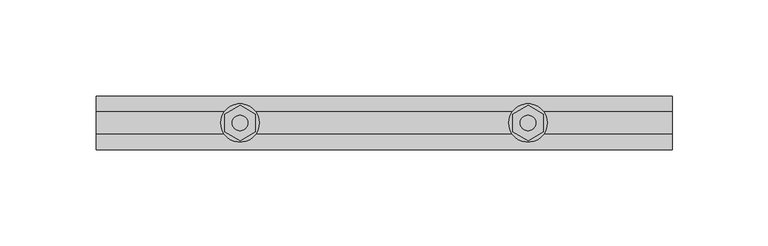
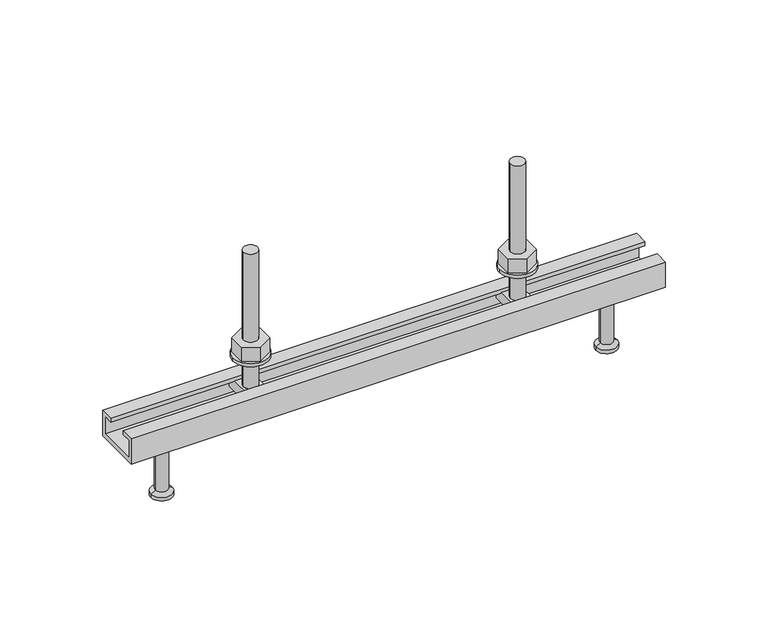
"""IFC4 building model written with IfcOpenShell, lengths in millimetres: fastener geometry, JTA-K JORDAHL® AnchorChannels : JTA-K L=300 mm."""

from ifc_helpers import new_model, si_unit, point, frame, frame_2d, origin, place, context, project, spatial, polyline, circle_curve, trimmed, segment, composite_curve, outline, extrude, source, transform, mapped, element, save
from ifc_brep_helpers import plane_surface, cylinder_surface, revolved_surface, advanced_brep


def fastener_61a32017(model_context):
    return source(origin(), model_context, "Body", "SolidModel", [
        extrude(outline(polyline([(225.0, 9.2376043), (233.0, 4.6188022), (233.0, -4.6188022), (225.0, -9.2376043), (217.0, -4.6188022), (217.0, 4.6188022), (225.0, 9.2376043)]), holes=[composite_curve([segment(trimmed(circle_curve(frame_2d((225.0, 0.0)), 4.0), [point((221.0, 0.0))], [point((229.0, 0.0))], True, "CARTESIAN"), True, "CONTINUOUS"), segment(trimmed(circle_curve(frame_2d((225.0, 0.0)), 4.0), [point((229.0, 0.0))], [point((221.0, 0.0))], True, "CARTESIAN"), True, "CONTINUOUS")], self_intersect=False)]), frame((0.0, 0.0, 17.0), z_axis=(0.0, 0.0, 1.0), x_axis=(1.0, 0.0, 0.0)), (0.0, 0.0, 1.0), 8.4),
        extrude(outline(composite_curve([segment(trimmed(circle_curve(frame_2d((225.0, 0.0)), 10.0), [point((215.0, 0.0))], [point((235.0, 0.0))], False, "CARTESIAN"), True, "CONTINUOUS"), segment(trimmed(circle_curve(frame_2d((225.0, 0.0)), 10.0), [point((235.0, 0.0))], [point((215.0, 0.0))], False, "CARTESIAN"), True, "CONTINUOUS")], self_intersect=False), holes=[composite_curve([segment(trimmed(circle_curve(frame_2d((225.0, 0.0)), 5.25), [point((219.75, 0.0))], [point((230.25, 0.0))], True, "CARTESIAN"), True, "CONTINUOUS"), segment(trimmed(circle_curve(frame_2d((225.0, 0.0)), 5.25), [point((230.25, 0.0))], [point((219.75, 0.0))], True, "CARTESIAN"), True, "CONTINUOUS")], self_intersect=False)]), frame((0.0, 0.0, 15.0), z_axis=(0.0, 0.0, 1.0), x_axis=(1.0, 0.0, 0.0)), (0.0, 0.0, 1.0), 2.0),
        extrude(outline(polyline([(75.0, 9.2376043), (83.0, 4.6188022), (83.0, -4.6188022), (75.0, -9.2376043), (67.0, -4.6188022), (67.0, 4.6188022), (75.0, 9.2376043)]), holes=[composite_curve([segment(trimmed(circle_curve(frame_2d((75.0, 0.0)), 4.0), [point((71.0, 0.0))], [point((79.0, 0.0))], True, "CARTESIAN"), True, "CONTINUOUS"), segment(trimmed(circle_curve(frame_2d((75.0, 0.0)), 4.0), [point((79.0, 0.0))], [point((71.0, 0.0))], True, "CARTESIAN"), True, "CONTINUOUS")], self_intersect=False)]), frame((0.0, 0.0, 17.0), z_axis=(0.0, 0.0, 1.0), x_axis=(1.0, 0.0, 0.0)), (0.0, 0.0, 1.0), 8.4),
        extrude(outline(composite_curve([segment(trimmed(circle_curve(frame_2d((75.0, 0.0)), 10.0), [point((65.0, 0.0))], [point((85.0, 0.0))], False, "CARTESIAN"), True, "CONTINUOUS"), segment(trimmed(circle_curve(frame_2d((75.0, 0.0)), 10.0), [point((85.0, 0.0))], [point((65.0, 0.0))], False, "CARTESIAN"), True, "CONTINUOUS")], self_intersect=False), holes=[composite_curve([segment(trimmed(circle_curve(frame_2d((75.0, 0.0)), 5.25), [point((69.75, 0.0))], [point((80.25, 0.0))], True, "CARTESIAN"), True, "CONTINUOUS"), segment(trimmed(circle_curve(frame_2d((75.0, 0.0)), 5.25), [point((80.25, 0.0))], [point((69.75, 0.0))], True, "CARTESIAN"), True, "CONTINUOUS")], self_intersect=False)]), frame((0.0, 0.0, 15.0), z_axis=(0.0, 0.0, 1.0), x_axis=(1.0, 0.0, 0.0)), (0.0, 0.0, 1.0), 2.0),
        advanced_brep(
        [(230.5, 11.0, -2.3), (230.5, -11.0, -2.3), (230.5, -11.0, -8.3), (230.5, 11.0, -8.3), (219.5, 11.0, -2.3), (219.5, 11.0, -8.3), (219.5, -11.0, -8.3), (219.5, -11.0, -2.3), (229.0, 0.0, -2.3), (221.0, 0.0, -2.3), (221.0, 0.0, 77.7), (229.0, 0.0, 77.7)],
        [
            (0, 1),
            (1, 2),
            (2, 3),
            (3, 0),
            (4, 5),
            (5, 6),
            (6, 7),
            (7, 4),
            (0, 4),
            (7, 1),
            (8, 9, circle_curve(frame((225.0, 0.0, -2.3), z_axis=(0.0, 0.0, -1.0), x_axis=(1.0, 0.0, 0.0)), 4.0)),
            (9, 8, circle_curve(frame((225.0, 0.0, -2.3), z_axis=(0.0, 0.0, -1.0), x_axis=(1.0, 0.0, 0.0)), 4.0)),
            (6, 2),
            (5, 3),
            (10, 11, circle_curve(frame((225.0, 0.0, 77.7), z_axis=(0.0, 0.0, 1.0), x_axis=(1.0, 0.0, 0.0)), 4.0)),
            (11, 10, circle_curve(frame((225.0, 0.0, 77.7), z_axis=(0.0, 0.0, 1.0), x_axis=(1.0, 0.0, 0.0)), 4.0)),
            (10, 9),
            (8, 11),
        ],
        [
            plane_surface(frame((230.5, -11.0, -2.3), z_axis=(1.0, 0.0, 0.0), x_axis=(0.0, -1.0, 0.0))),
            plane_surface(frame((219.5, -11.0, -2.3), z_axis=(-1.0, 0.0, 0.0), x_axis=(0.0, 1.0, 0.0))),
            plane_surface(frame((230.5, 11.0, -2.3), z_axis=(0.0, 0.0, 1.0), x_axis=(-1.0, 0.0, 0.0))),
            plane_surface(frame((230.5, -11.0, -2.3), z_axis=(0.0, -1.0, 0.0), x_axis=(-1.0, 0.0, 0.0))),
            plane_surface(frame((230.5, -11.0, -8.3), z_axis=(0.0, 0.0, -1.0), x_axis=(-1.0, 0.0, 0.0))),
            plane_surface(frame((230.5, 11.0, -8.3), z_axis=(0.0, 1.0, 0.0), x_axis=(-1.0, 0.0, 0.0))),
            plane_surface(frame((229.0, 0.0, 77.7), z_axis=(0.0, 0.0, 1.0), x_axis=(0.0, 1.0, 0.0))),
            cylinder_surface(frame((225.0, 0.0, -2.3), z_axis=(0.0, 0.0, 1.0), x_axis=(1.0, 0.0, 0.0)), 4.0),
        ],
        [
            (0, [[1, 2, 3, 4]]),
            (1, [[5, 6, 7, 8]]),
            (2, [[-1, 9, -8, 10], [11, 12]]),
            (3, [[-2, -10, -7, 13]]),
            (4, [[-3, -13, -6, 14]]),
            (5, [[-4, -14, -5, -9]]),
            (6, [[15, 16]]),
            (7, [[-15, 17, -11, 18]]),
            (7, [[-16, -18, -12, -17]]),
        ],
    ),
        advanced_brep(
        [(80.5, 11.0, -2.3), (80.5, -11.0, -2.3), (80.5, -11.0, -8.3), (80.5, 11.0, -8.3), (69.5, 11.0, -2.3), (69.5, 11.0, -8.3), (69.5, -11.0, -8.3), (69.5, -11.0, -2.3), (79.0, 0.0, -2.3), (71.0, 0.0, -2.3), (71.0, 0.0, 77.7), (79.0, 0.0, 77.7)],
        [
            (0, 1),
            (1, 2),
            (2, 3),
            (3, 0),
            (4, 5),
            (5, 6),
            (6, 7),
            (7, 4),
            (0, 4),
            (7, 1),
            (8, 9, circle_curve(frame((75.0, 0.0, -2.3), z_axis=(0.0, 0.0, -1.0), x_axis=(1.0, 0.0, 0.0)), 4.0)),
            (9, 8, circle_curve(frame((75.0, 0.0, -2.3), z_axis=(0.0, 0.0, -1.0), x_axis=(1.0, 0.0, 0.0)), 4.0)),
            (6, 2),
            (5, 3),
            (10, 11, circle_curve(frame((75.0, 0.0, 77.7), z_axis=(0.0, 0.0, 1.0), x_axis=(1.0, 0.0, 0.0)), 4.0)),
            (11, 10, circle_curve(frame((75.0, 0.0, 77.7), z_axis=(0.0, 0.0, 1.0), x_axis=(1.0, 0.0, 0.0)), 4.0)),
            (10, 9),
            (8, 11),
        ],
        [
            plane_surface(frame((80.5, -11.0, -2.3), z_axis=(1.0, 0.0, 0.0), x_axis=(0.0, -1.0, 0.0))),
            plane_surface(frame((69.5, -11.0, -2.3), z_axis=(-1.0, 0.0, 0.0), x_axis=(0.0, 1.0, 0.0))),
            plane_surface(frame((80.5, 11.0, -2.3), z_axis=(0.0, 0.0, 1.0), x_axis=(-1.0, 0.0, 0.0))),
            plane_surface(frame((80.5, -11.0, -2.3), z_axis=(0.0, -1.0, 0.0), x_axis=(-1.0, 0.0, 0.0))),
            plane_surface(frame((80.5, -11.0, -8.3), z_axis=(0.0, 0.0, -1.0), x_axis=(-1.0, 0.0, 0.0))),
            plane_surface(frame((80.5, 11.0, -8.3), z_axis=(0.0, 1.0, 0.0), x_axis=(-1.0, 0.0, 0.0))),
            plane_surface(frame((79.0, 0.0, 77.7), z_axis=(0.0, 0.0, 1.0), x_axis=(0.0, 1.0, 0.0))),
            cylinder_surface(frame((75.0, 0.0, -2.3), z_axis=(0.0, 0.0, 1.0), x_axis=(1.0, 0.0, 0.0)), 4.0),
        ],
        [
            (0, [[1, 2, 3, 4]]),
            (1, [[5, 6, 7, 8]]),
            (2, [[-1, 9, -8, 10], [11, 12]]),
            (3, [[-2, -10, -7, 13]]),
            (4, [[-3, -13, -6, 14]]),
            (5, [[-4, -14, -5, -9]]),
            (6, [[15, 16]]),
            (7, [[-15, 17, -11, 18]]),
            (7, [[-16, -18, -12, -17]]),
        ],
    ),
        advanced_brep(
        [(275.0, 0.0, -15.0), (285.5, 0.0, -15.0), (264.5, 0.0, -15.0), (269.0, 0.0, -50.0), (281.0, 0.0, -50.0), (275.0, 0.0, -50.0), (269.0, 0.0, -48.0), (281.0, 0.0, -48.0), (271.5, 0.0, -46.5566243), (278.5, 0.0, -46.5566243), (271.5, 0.0, -17.5), (278.5, 0.0, -17.5)],
        [
            (0, 1),
            (1, 2, circle_curve(frame((275.0, 0.0, -15.0), z_axis=(0.0, 0.0, 1.0), x_axis=(1.0, 0.0, 0.0)), 10.5)),
            (2, 0),
            (2, 1, circle_curve(frame((275.0, 0.0, -15.0), z_axis=(0.0, 0.0, 1.0), x_axis=(1.0, 0.0, 0.0)), 10.5)),
            (3, 4, circle_curve(frame((275.0, 0.0, -50.0), z_axis=(0.0, 0.0, -1.0), x_axis=(1.0, 0.0, 0.0)), 6.0)),
            (4, 5),
            (5, 3),
            (4, 3, circle_curve(frame((275.0, 0.0, -50.0), z_axis=(0.0, 0.0, -1.0), x_axis=(1.0, 0.0, 0.0)), 6.0)),
            (6, 7, circle_curve(frame((275.0, 0.0, -48.0), z_axis=(0.0, 0.0, -1.0), x_axis=(1.0, 0.0, 0.0)), 6.0)),
            (7, 4),
            (3, 6),
            (7, 6, circle_curve(frame((275.0, 0.0, -48.0), z_axis=(0.0, 0.0, -1.0), x_axis=(1.0, 0.0, 0.0)), 6.0)),
            (8, 9, circle_curve(frame((275.0, 0.0, -46.5566243), z_axis=(0.0, 0.0, -1.0), x_axis=(1.0, 0.0, 0.0)), 3.5)),
            (9, 7),
            (6, 8),
            (9, 8, circle_curve(frame((275.0, 0.0, -46.5566243), z_axis=(0.0, 0.0, -1.0), x_axis=(1.0, 0.0, 0.0)), 3.5)),
            (10, 11, circle_curve(frame((275.0, 0.0, -17.5), z_axis=(0.0, 0.0, -1.0), x_axis=(1.0, 0.0, 0.0)), 3.5)),
            (11, 9),
            (8, 10),
            (11, 10, circle_curve(frame((275.0, 0.0, -17.5), z_axis=(0.0, 0.0, -1.0), x_axis=(1.0, 0.0, 0.0)), 3.5)),
            (1, 11),
            (10, 2),
        ],
        [
            plane_surface(frame((275.0, 0.0, -15.0), z_axis=(0.0, 0.0, 1.0), x_axis=(1.0, 0.0, 0.0))),
            plane_surface(frame((275.0, 0.0, -50.0), z_axis=(0.0, 0.0, -1.0), x_axis=(1.0, 0.0, 0.0))),
            cylinder_surface(frame((275.0, 0.0, 2249.3150031), z_axis=(0.0, 0.0, 1.0), x_axis=(1.0, 0.0, 0.0)), 6.0),
            revolved_surface(polyline([(281.0, 0.0, -48.0), (278.5, 0.0, -46.5566243)]), (275.0, 0.0, 2249.3150031), (0.0, 0.0, 1.0)),
            cylinder_surface(frame((275.0, 0.0, 2249.3150031), z_axis=(0.0, 0.0, 1.0), x_axis=(1.0, 0.0, 0.0)), 3.5),
            revolved_surface(polyline([(278.5, 0.0, -17.5), (285.5, 0.0, -15.0)]), (275.0, 0.0, 2249.3150031), (0.0, 0.0, 1.0)),
        ],
        [
            (0, [[1, 2, 3]]),
            (0, [[-3, 4, -1]]),
            (1, [[5, 6, 7]]),
            (1, [[8, -7, -6]]),
            (2, [[9, 10, -5, 11]]),
            (2, [[12, -11, -8, -10]]),
            (3, [[13, 14, -9, 15]]),
            (3, [[16, -15, -12, -14]]),
            (4, [[17, 18, -13, 19]]),
            (4, [[20, -19, -16, -18]]),
            (5, [[-2, 21, -17, 22]]),
            (5, [[-4, -22, -20, -21]]),
        ],
    ),
        advanced_brep(
        [(25.0, 0.0, -15.0), (35.5, 0.0, -15.0), (14.5, 0.0, -15.0), (19.0, 0.0, -50.0), (31.0, 0.0, -50.0), (25.0, 0.0, -50.0), (19.0, 0.0, -48.0), (31.0, 0.0, -48.0), (21.5, 0.0, -46.5566243), (28.5, 0.0, -46.5566243), (21.5, 0.0, -17.5), (28.5, 0.0, -17.5)],
        [
            (0, 1),
            (1, 2, circle_curve(frame((25.0, 0.0, -15.0), z_axis=(0.0, 0.0, 1.0), x_axis=(1.0, 0.0, 0.0)), 10.5)),
            (2, 0),
            (2, 1, circle_curve(frame((25.0, 0.0, -15.0), z_axis=(0.0, 0.0, 1.0), x_axis=(1.0, 0.0, 0.0)), 10.5)),
            (3, 4, circle_curve(frame((25.0, 0.0, -50.0), z_axis=(0.0, 0.0, -1.0), x_axis=(1.0, 0.0, 0.0)), 6.0)),
            (4, 5),
            (5, 3),
            (4, 3, circle_curve(frame((25.0, 0.0, -50.0), z_axis=(0.0, 0.0, -1.0), x_axis=(1.0, 0.0, 0.0)), 6.0)),
            (6, 7, circle_curve(frame((25.0, 0.0, -48.0), z_axis=(0.0, 0.0, -1.0), x_axis=(1.0, 0.0, 0.0)), 6.0)),
            (7, 4),
            (3, 6),
            (7, 6, circle_curve(frame((25.0, 0.0, -48.0), z_axis=(0.0, 0.0, -1.0), x_axis=(1.0, 0.0, 0.0)), 6.0)),
            (8, 9, circle_curve(frame((25.0, 0.0, -46.5566243), z_axis=(0.0, 0.0, -1.0), x_axis=(1.0, 0.0, 0.0)), 3.5)),
            (9, 7),
            (6, 8),
            (9, 8, circle_curve(frame((25.0, 0.0, -46.5566243), z_axis=(0.0, 0.0, -1.0), x_axis=(1.0, 0.0, 0.0)), 3.5)),
            (10, 11, circle_curve(frame((25.0, 0.0, -17.5), z_axis=(0.0, 0.0, -1.0), x_axis=(1.0, 0.0, 0.0)), 3.5)),
            (11, 9),
            (8, 10),
            (11, 10, circle_curve(frame((25.0, 0.0, -17.5), z_axis=(0.0, 0.0, -1.0), x_axis=(1.0, 0.0, 0.0)), 3.5)),
            (1, 11),
            (10, 2),
        ],
        [
            plane_surface(frame((25.0, 0.0, -15.0), z_axis=(0.0, 0.0, 1.0), x_axis=(1.0, 0.0, 0.0))),
            plane_surface(frame((25.0, 0.0, -50.0), z_axis=(0.0, 0.0, -1.0), x_axis=(1.0, 0.0, 0.0))),
            cylinder_surface(frame((25.0, 0.0, 2249.3150031), z_axis=(0.0, 0.0, 1.0), x_axis=(1.0, 0.0, 0.0)), 6.0),
            revolved_surface(polyline([(31.0, 0.0, -48.0), (28.5, 0.0, -46.5566243)]), (25.0, 0.0, 2249.3150031), (0.0, 0.0, 1.0)),
            cylinder_surface(frame((25.0, 0.0, 2249.3150031), z_axis=(0.0, 0.0, 1.0), x_axis=(1.0, 0.0, 0.0)), 3.5),
            revolved_surface(polyline([(28.5, 0.0, -17.5), (35.5, 0.0, -15.0)]), (25.0, 0.0, 2249.3150031), (0.0, 0.0, 1.0)),
        ],
        [
            (0, [[1, 2, 3]]),
            (0, [[-3, 4, -1]]),
            (1, [[5, 6, 7]]),
            (1, [[8, -7, -6]]),
            (2, [[9, 10, -5, 11]]),
            (2, [[12, -11, -8, -10]]),
            (3, [[13, 14, -9, 15]]),
            (3, [[16, -15, -12, -14]]),
            (4, [[17, 18, -13, 19]]),
            (4, [[20, -19, -16, -18]]),
            (5, [[-2, 21, -17, 22]]),
            (5, [[-4, -22, -20, -21]]),
        ],
    ),
        extrude(outline(polyline([(14.0, 0.0), (14.0, -15.0), (-14.0, -15.0), (-14.0, 0.0), (-6.0, 0.0), (-6.0, -2.3), (-11.7, -2.3), (-11.7, -12.7), (11.7, -12.7), (11.7, -2.3), (6.0, -2.3), (6.0, 0.0), (14.0, 0.0)])), frame((0.0, 0.0, 0.0), z_axis=(1.0, 0.0, 0.0), x_axis=(0.0, 1.0, 0.0)), (0.0, 0.0, 1.0), 300.0),
    ])


if __name__ == "__main__":
    model = new_model("IFC4")
    model_context = context("Model", 3, world=origin())
    ifc_project = project(units=[si_unit("LENGTHUNIT", "METRE", prefix="MILLI")], contexts=[model_context])
    site = spatial("IfcSite", under=ifc_project)
    building = spatial("IfcBuilding", under=site)
    placement = place(None, origin())
    fastener_shape = fastener_61a32017(model_context)
    element("IfcFastener", 1, ObjectType="JTA-K JORDAHL® AnchorChannels : JTA-K L=300 mm", at=placement, inside=building, context=model_context, shape_type="MappedRepresentation", body=[
        mapped(fastener_shape, transform((0.0, 0.0, 0.0), x_axis=(1.0, 0.0, 0.0), y_axis=(0.0, 1.0, 0.0), z_axis=(0.0, 0.0, 1.0))),
    ])
    save(model, "model.ifc")
